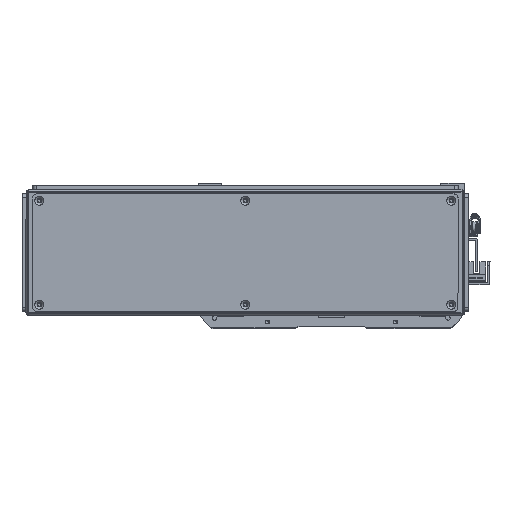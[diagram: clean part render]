
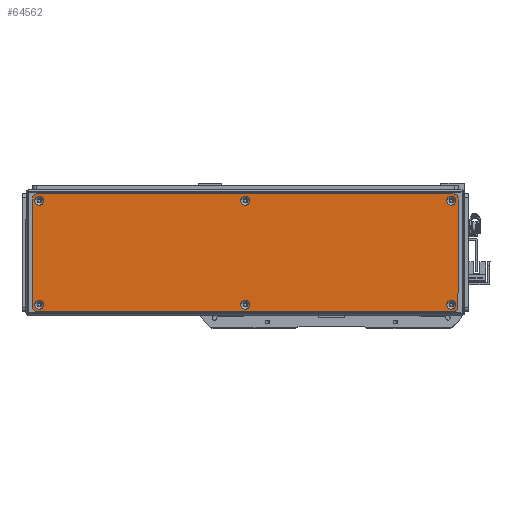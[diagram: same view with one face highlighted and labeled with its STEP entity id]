
A CAD part, front view. The second image highlights one B-rep face of the part: STEP entity #64562.
In plain terms, the highlighted planar face has unit normal (0, -1, 0).
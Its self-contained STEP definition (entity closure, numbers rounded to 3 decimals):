
#2676=FACE_BOUND('',#10991,.T.);
#2677=FACE_BOUND('',#10992,.T.);
#2678=FACE_BOUND('',#10993,.T.);
#2679=FACE_BOUND('',#10994,.T.);
#2680=FACE_BOUND('',#10995,.T.);
#2681=FACE_BOUND('',#10996,.T.);
#4074=CIRCLE('',#69586,3.45);
#4077=CIRCLE('',#69591,3.45);
#4080=CIRCLE('',#69596,3.45);
#4083=CIRCLE('',#69601,3.45);
#4086=CIRCLE('',#69606,3.45);
#4089=CIRCLE('',#69611,3.45);
#4092=CIRCLE('',#69616,3.);
#4094=CIRCLE('',#69619,3.);
#4095=CIRCLE('',#69620,3.);
#4096=CIRCLE('',#69621,3.);
#7293=FACE_OUTER_BOUND('',#10990,.T.);
#10990=EDGE_LOOP('',(#58333,#58334,#58335,#58336,#58337,#58338,#58339,#58340));
#10991=EDGE_LOOP('',(#58341));
#10992=EDGE_LOOP('',(#58342));
#10993=EDGE_LOOP('',(#58343));
#10994=EDGE_LOOP('',(#58344));
#10995=EDGE_LOOP('',(#58345));
#10996=EDGE_LOOP('',(#58346));
#18277=LINE('',#106619,#25609);
#18278=LINE('',#106623,#25610);
#18279=LINE('',#106627,#25611);
#18280=LINE('',#106630,#25612);
#25609=VECTOR('',#86028,10.);
#25610=VECTOR('',#86031,10.);
#25611=VECTOR('',#86034,10.);
#25612=VECTOR('',#86037,10.);
#31657=VERTEX_POINT('',#106549);
#31660=VERTEX_POINT('',#106559);
#31663=VERTEX_POINT('',#106569);
#31666=VERTEX_POINT('',#106579);
#31669=VERTEX_POINT('',#106589);
#31672=VERTEX_POINT('',#106599);
#31675=VERTEX_POINT('',#106609);
#31676=VERTEX_POINT('',#106610);
#31679=VERTEX_POINT('',#106618);
#31680=VERTEX_POINT('',#106620);
#31681=VERTEX_POINT('',#106622);
#31682=VERTEX_POINT('',#106624);
#31683=VERTEX_POINT('',#106626);
#31684=VERTEX_POINT('',#106628);
#40573=EDGE_CURVE('',#31657,#31657,#4074,.T.);
#40578=EDGE_CURVE('',#31660,#31660,#4077,.T.);
#40583=EDGE_CURVE('',#31663,#31663,#4080,.T.);
#40588=EDGE_CURVE('',#31666,#31666,#4083,.T.);
#40593=EDGE_CURVE('',#31669,#31669,#4086,.T.);
#40598=EDGE_CURVE('',#31672,#31672,#4089,.T.);
#40603=EDGE_CURVE('',#31675,#31676,#4092,.T.);
#40607=EDGE_CURVE('',#31675,#31679,#18277,.T.);
#40608=EDGE_CURVE('',#31680,#31679,#4094,.T.);
#40609=EDGE_CURVE('',#31680,#31681,#18278,.T.);
#40610=EDGE_CURVE('',#31682,#31681,#4095,.T.);
#40611=EDGE_CURVE('',#31682,#31683,#18279,.T.);
#40612=EDGE_CURVE('',#31684,#31683,#4096,.T.);
#40613=EDGE_CURVE('',#31684,#31676,#18280,.T.);
#58333=ORIENTED_EDGE('',*,*,#40603,.F.);
#58334=ORIENTED_EDGE('',*,*,#40607,.T.);
#58335=ORIENTED_EDGE('',*,*,#40608,.F.);
#58336=ORIENTED_EDGE('',*,*,#40609,.T.);
#58337=ORIENTED_EDGE('',*,*,#40610,.F.);
#58338=ORIENTED_EDGE('',*,*,#40611,.T.);
#58339=ORIENTED_EDGE('',*,*,#40612,.F.);
#58340=ORIENTED_EDGE('',*,*,#40613,.T.);
#58341=ORIENTED_EDGE('',*,*,#40573,.T.);
#58342=ORIENTED_EDGE('',*,*,#40578,.T.);
#58343=ORIENTED_EDGE('',*,*,#40583,.T.);
#58344=ORIENTED_EDGE('',*,*,#40588,.T.);
#58345=ORIENTED_EDGE('',*,*,#40593,.T.);
#58346=ORIENTED_EDGE('',*,*,#40598,.T.);
#61378=PLANE('',#69618);
#64562=ADVANCED_FACE('',(#7293,#2676,#2677,#2678,#2679,#2680,#2681),#61378,
 .T.);
#69586=AXIS2_PLACEMENT_3D('',#106550,#85948,#85949);
#69591=AXIS2_PLACEMENT_3D('',#106560,#85960,#85961);
#69596=AXIS2_PLACEMENT_3D('',#106570,#85972,#85973);
#69601=AXIS2_PLACEMENT_3D('',#106580,#85984,#85985);
#69606=AXIS2_PLACEMENT_3D('',#106590,#85996,#85997);
#69611=AXIS2_PLACEMENT_3D('',#106600,#86008,#86009);
#69616=AXIS2_PLACEMENT_3D('',#106611,#86020,#86021);
#69618=AXIS2_PLACEMENT_3D('',#106617,#86026,#86027);
#69619=AXIS2_PLACEMENT_3D('',#106621,#86029,#86030);
#69620=AXIS2_PLACEMENT_3D('',#106625,#86032,#86033);
#69621=AXIS2_PLACEMENT_3D('',#106629,#86035,#86036);
#85948=DIRECTION('center_axis',(0.,1.,0.));
#85949=DIRECTION('ref_axis',(1.,0.,0.));
#85960=DIRECTION('center_axis',(0.,1.,0.));
#85961=DIRECTION('ref_axis',(1.,0.,0.));
#85972=DIRECTION('center_axis',(0.,1.,0.));
#85973=DIRECTION('ref_axis',(1.,0.,0.));
#85984=DIRECTION('center_axis',(0.,1.,0.));
#85985=DIRECTION('ref_axis',(1.,0.,0.));
#85996=DIRECTION('center_axis',(0.,1.,0.));
#85997=DIRECTION('ref_axis',(1.,0.,0.));
#86008=DIRECTION('center_axis',(0.,1.,0.));
#86009=DIRECTION('ref_axis',(1.,0.,0.));
#86020=DIRECTION('center_axis',(0.,1.,0.));
#86021=DIRECTION('ref_axis',(-0.707,0.,0.707));
#86026=DIRECTION('center_axis',(0.,-1.,0.));
#86027=DIRECTION('ref_axis',(0.,0.,-1.));
#86028=DIRECTION('',(0.,0.,-1.));
#86029=DIRECTION('center_axis',(0.,1.,0.));
#86030=DIRECTION('ref_axis',(-0.707,0.,-0.707));
#86031=DIRECTION('',(1.,0.,0.));
#86032=DIRECTION('center_axis',(0.,1.,0.));
#86033=DIRECTION('ref_axis',(0.707,0.,-0.707));
#86034=DIRECTION('',(0.,0.,1.));
#86035=DIRECTION('center_axis',(0.,1.,0.));
#86036=DIRECTION('ref_axis',(0.707,0.,0.707));
#86037=DIRECTION('',(-1.,0.,0.));
#106549=CARTESIAN_POINT('',(151.05,-1.5,39.));
#106550=CARTESIAN_POINT('Origin',(154.5,-1.5,39.));
#106559=CARTESIAN_POINT('',(-3.45,-1.5,39.));
#106560=CARTESIAN_POINT('Origin',(0.,-1.5,39.));
#106569=CARTESIAN_POINT('',(-157.95,-1.5,39.));
#106570=CARTESIAN_POINT('Origin',(-154.5,-1.5,39.));
#106579=CARTESIAN_POINT('',(-157.95,-1.5,-39.));
#106580=CARTESIAN_POINT('Origin',(-154.5,-1.5,-39.));
#106589=CARTESIAN_POINT('',(-3.45,-1.5,-39.));
#106590=CARTESIAN_POINT('Origin',(0.,-1.5,-39.));
#106599=CARTESIAN_POINT('',(151.05,-1.5,-39.));
#106600=CARTESIAN_POINT('Origin',(154.5,-1.5,-39.));
#106609=CARTESIAN_POINT('',(-159.5,-1.5,41.));
#106610=CARTESIAN_POINT('',(-156.5,-1.5,44.));
#106611=CARTESIAN_POINT('Origin',(-156.5,-1.5,41.));
#106617=CARTESIAN_POINT('Origin',(0.,-1.5,0.));
#106618=CARTESIAN_POINT('',(-159.5,-1.5,-41.));
#106619=CARTESIAN_POINT('',(-159.5,-1.5,44.));
#106620=CARTESIAN_POINT('',(-156.5,-1.5,-44.));
#106621=CARTESIAN_POINT('Origin',(-156.5,-1.5,-41.));
#106622=CARTESIAN_POINT('',(156.5,-1.5,-44.));
#106623=CARTESIAN_POINT('',(-159.5,-1.5,-44.));
#106624=CARTESIAN_POINT('',(159.5,-1.5,-41.));
#106625=CARTESIAN_POINT('Origin',(156.5,-1.5,-41.));
#106626=CARTESIAN_POINT('',(159.5,-1.5,41.));
#106627=CARTESIAN_POINT('',(159.5,-1.5,-44.));
#106628=CARTESIAN_POINT('',(156.5,-1.5,44.));
#106629=CARTESIAN_POINT('Origin',(156.5,-1.5,41.));
#106630=CARTESIAN_POINT('',(159.5,-1.5,44.));
